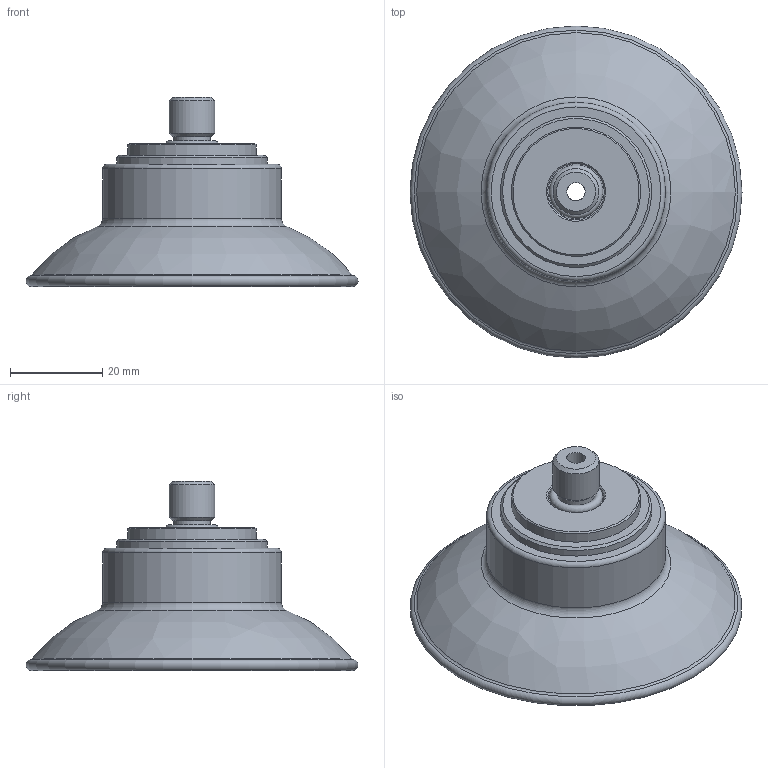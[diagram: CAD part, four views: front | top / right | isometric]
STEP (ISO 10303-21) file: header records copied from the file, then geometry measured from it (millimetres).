
FILE_DESCRIPTION( ( 'Unknown' ), '1' );
FILE_NAME( 'D:/弥龋覆(冠固急)/Smart Cup/寇何侩-唱荤魂TYPE/FCF70-M10M.stp', 'Unknown', ( 'Unknown' ), ( 'Unknown' ), 'PSStep 10.0', 'Unknown', ' ' );
FILE_SCHEMA( ( 'AUTOMOTIVE_DESIGN { 1 0 10303 214 1 1 1 1 }' ) );
Length unit declared in the file: millimetre
Products named in the file (4): Assem1; FCF70; VDF-FCF-M10M; M10M-oring
Bounding box: 72 x 72 x 41 mm (x, y, z)
Volume: 56734.3 mm3; surface area: 41866.3 mm2
Topology: 6 solids, 6 shells, 140 faces, 242 edges, 140 vertices
Faces by surface type: cylinder 42, cone 38, plane 38, torus 16, bspline 6
Full cylindrical faces by diameter (mm): 4 x2, 6.928 x2, 7.5 x2, 8 x2, 9.5 x2, 10 x2, 12.2 x2, 16 x8, 16.8 x4, 28 x2, 30.8 x4, 32.8 x6, 38.8 x2, 56.9 x2
Entity records: 2100 total; most frequent: CARTESIAN_POINT 293, DIRECTION 280, AXIS2_PLACEMENT_3D 140, EDGE_LOOP 138, ORIENTED_EDGE 138, FACE_OUTER_BOUND 100, STYLED_ITEM 70, PRESENTATION_STYLE_ASSIGNMENT 70
